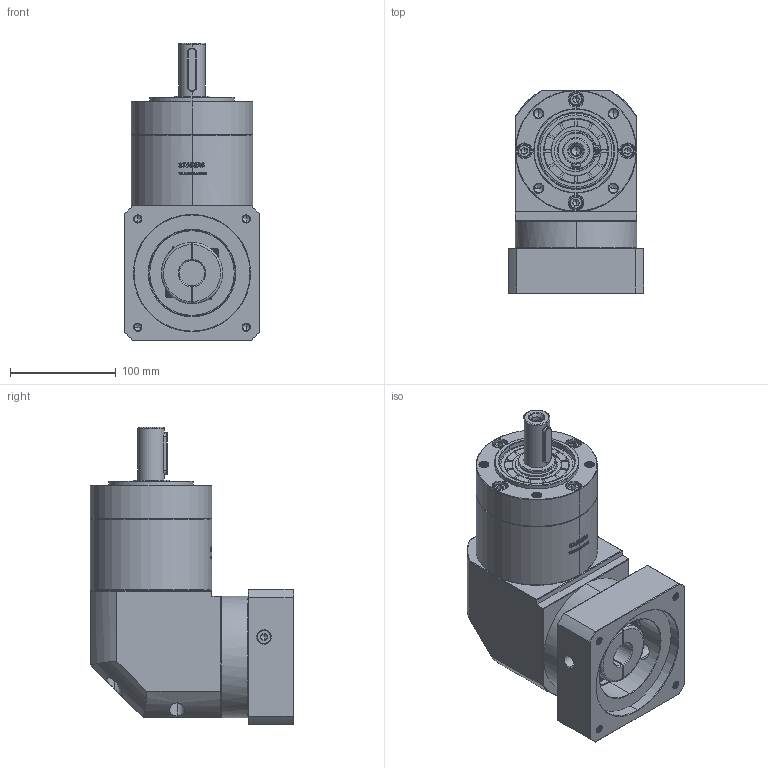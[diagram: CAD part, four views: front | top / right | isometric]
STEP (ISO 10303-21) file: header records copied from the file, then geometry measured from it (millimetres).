
FILE_DESCRIPTION (( 'STEP AP214' ), '1' );
FILE_NAME ('ZER120A-D25-L2-24-110-145-M8.step', '2023-03-14T08:17:05', ( '' ), ( '' ), 'SwSTEP 2.0', 'SolidWorks 2016', '' );
FILE_SCHEMA (( 'AUTOMOTIVE_DESIGN' ));
Length unit declared in the file: millimetre
Products named in the file (1): ZER120A-D25-L2-24-110-145-M8
Bounding box: 128 x 192.4 x 281.5 mm (x, y, z)
Volume: 3211901.8 mm3; surface area: 256657.3 mm2
Topology: 6 solids, 6 shells, 2954 faces, 7934 edges, 5124 vertices
Faces by surface type: plane 1463, bspline 618, cylinder 532, cone 333, torus 8
Entity records: 169298 total; most frequent: CARTESIAN_POINT 69493, ORIENTED_EDGE 15792, DIRECTION 11267, EDGE_CURVE 7896, VERTEX_POINT 5124, LINE 4803, VECTOR 4803, AXIS2_PLACEMENT_3D 3232
